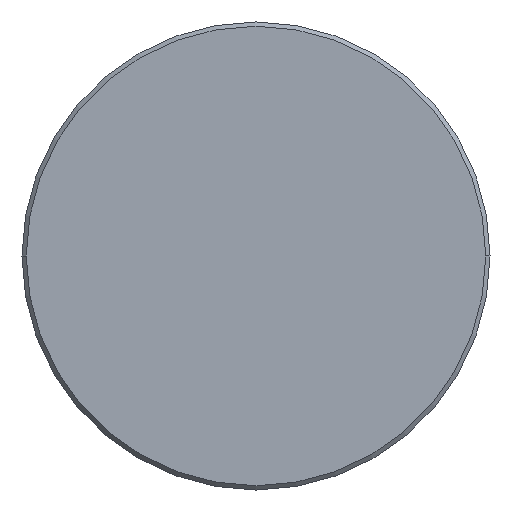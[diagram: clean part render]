
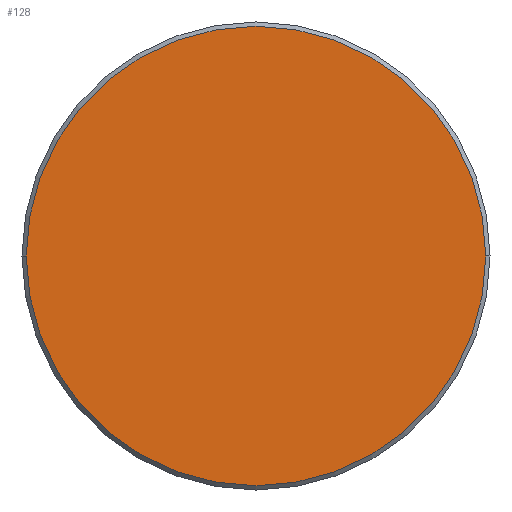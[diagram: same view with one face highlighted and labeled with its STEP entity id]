
A CAD part, left-side view. The second image highlights one B-rep face of the part: STEP entity #128.
In plain terms, the highlighted planar face has unit normal (-1, 0, 0).
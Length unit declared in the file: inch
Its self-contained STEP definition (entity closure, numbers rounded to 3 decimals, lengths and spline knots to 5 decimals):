
#27 = FACE_OUTER_BOUND ( 'NONE', #355, .T. ) ;
#40 = CIRCLE ( 'NONE', #192, 0.21475 ) ;
#63 = ORIENTED_EDGE ( 'NONE', *, *, #96, .T. ) ;
#77 = VERTEX_POINT ( 'NONE', #366 ) ;
#82 = CIRCLE ( 'NONE', #157, 0.21475 ) ;
#83 = ORIENTED_EDGE ( 'NONE', *, *, #196, .T. ) ;
#84 = AXIS2_PLACEMENT_3D ( 'NONE', #107, #362, #136 ) ;
#96 = EDGE_CURVE ( 'NONE', #150, #77, #82, .T. ) ;
#107 = CARTESIAN_POINT ( 'NONE',  ( 0., 0., 0. ) ) ;
#117 = DIRECTION ( 'NONE',  ( 0., -1., 0. ) ) ;
#128 = ADVANCED_FACE ( 'NONE', ( #27 ), #219, .T. ) ;
#136 = DIRECTION ( 'NONE',  ( 0., -1., 0. ) ) ;
#150 = VERTEX_POINT ( 'NONE', #166 ) ;
#157 = AXIS2_PLACEMENT_3D ( 'NONE', #335, #367, #217 ) ;
#166 = CARTESIAN_POINT ( 'NONE',  ( 0., -0.21475, 0. ) ) ;
#172 = CARTESIAN_POINT ( 'NONE',  ( 0., 0., 0. ) ) ;
#192 = AXIS2_PLACEMENT_3D ( 'NONE', #172, #230, #117 ) ;
#196 = EDGE_CURVE ( 'NONE', #77, #150, #40, .T. ) ;
#217 = DIRECTION ( 'NONE',  ( 0., -1., 0. ) ) ;
#219 = PLANE ( 'NONE',  #84 ) ;
#230 = DIRECTION ( 'NONE',  ( -1., 0., 0. ) ) ;
#335 = CARTESIAN_POINT ( 'NONE',  ( 0., 0., 0. ) ) ;
#355 = EDGE_LOOP ( 'NONE', ( #83, #63 ) ) ;
#362 = DIRECTION ( 'NONE',  ( -1., 0., 0. ) ) ;
#366 = CARTESIAN_POINT ( 'NONE',  ( 0., 0.21475, 0. ) ) ;
#367 = DIRECTION ( 'NONE',  ( -1., 0., 0. ) ) ;
